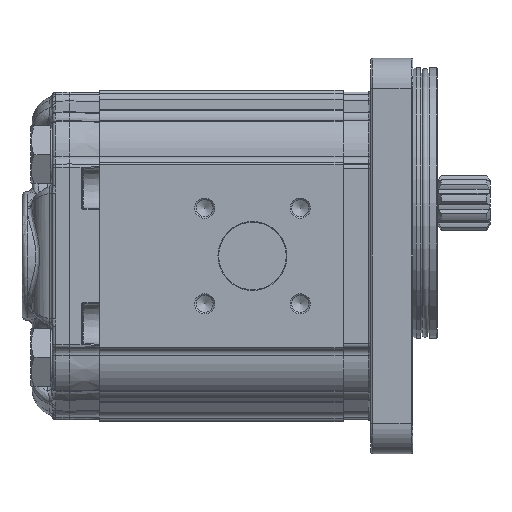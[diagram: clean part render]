
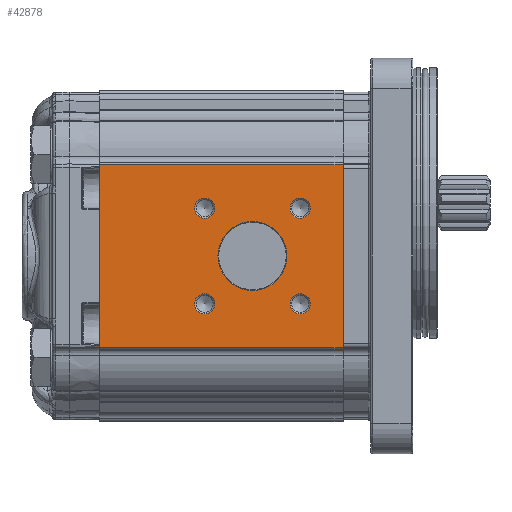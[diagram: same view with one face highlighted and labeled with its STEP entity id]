
A CAD part, left-side view. The second image highlights one B-rep face of the part: STEP entity #42878.
In plain terms, the highlighted planar face has unit normal (-1, 0, 0).
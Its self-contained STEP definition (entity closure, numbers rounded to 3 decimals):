
#2506=PLANE('',#45308);
#3247=LINE('',#59863,#4901);
#3248=LINE('',#59866,#4902);
#3249=LINE('',#59868,#4903);
#3250=LINE('',#59870,#4904);
#4901=VECTOR('',#49655,1000.);
#4902=VECTOR('',#49656,1000.);
#4903=VECTOR('',#49657,1000.);
#4904=VECTOR('',#49658,1000.);
#8594=ORIENTED_EDGE('',*,*,#16449,.T.);
#8595=ORIENTED_EDGE('',*,*,#16450,.T.);
#8596=ORIENTED_EDGE('',*,*,#16451,.T.);
#8597=ORIENTED_EDGE('',*,*,#16452,.T.);
#8598=ORIENTED_EDGE('',*,*,#16453,.T.);
#8599=ORIENTED_EDGE('',*,*,#16454,.F.);
#8600=ORIENTED_EDGE('',*,*,#16455,.F.);
#8601=ORIENTED_EDGE('',*,*,#16456,.T.);
#8602=ORIENTED_EDGE('',*,*,#16457,.T.);
#16449=EDGE_CURVE('',#20542,#20542,#23119,.F.);
#16450=EDGE_CURVE('',#20543,#20543,#23120,.F.);
#16451=EDGE_CURVE('',#20544,#20544,#23121,.F.);
#16452=EDGE_CURVE('',#20545,#20545,#23122,.F.);
#16453=EDGE_CURVE('',#20546,#20546,#23123,.F.);
#16454=EDGE_CURVE('',#20547,#20548,#3247,.T.);
#16455=EDGE_CURVE('',#20549,#20547,#3248,.T.);
#16456=EDGE_CURVE('',#20549,#20550,#3249,.T.);
#16457=EDGE_CURVE('',#20550,#20548,#3250,.T.);
#20542=VERTEX_POINT('',#59854);
#20543=VERTEX_POINT('',#59856);
#20544=VERTEX_POINT('',#59858);
#20545=VERTEX_POINT('',#59860);
#20546=VERTEX_POINT('',#59862);
#20547=VERTEX_POINT('',#59864);
#20548=VERTEX_POINT('',#59865);
#20549=VERTEX_POINT('',#59867);
#20550=VERTEX_POINT('',#59869);
#23119=CIRCLE('',#45309,10.2);
#23120=CIRCLE('',#45310,3.);
#23121=CIRCLE('',#45311,3.);
#23122=CIRCLE('',#45312,3.);
#23123=CIRCLE('',#45313,3.);
#24662=EDGE_LOOP('',(#8594));
#24663=EDGE_LOOP('',(#8595));
#24664=EDGE_LOOP('',(#8596));
#24665=EDGE_LOOP('',(#8597));
#24666=EDGE_LOOP('',(#8598));
#24667=EDGE_LOOP('',(#8599,#8600,#8601,#8602));
#26849=FACE_BOUND('',#24662,.T.);
#26850=FACE_BOUND('',#24663,.T.);
#26851=FACE_BOUND('',#24664,.T.);
#26852=FACE_BOUND('',#24665,.T.);
#26853=FACE_BOUND('',#24666,.T.);
#26854=FACE_BOUND('',#24667,.T.);
#42878=ADVANCED_FACE('',(#26849,#26850,#26851,#26852,#26853,#26854),#2506,
 .T.);
#45308=AXIS2_PLACEMENT_3D('',#59852,#49643,#49644);
#45309=AXIS2_PLACEMENT_3D('',#59853,#49645,#49646);
#45310=AXIS2_PLACEMENT_3D('',#59855,#49647,#49648);
#45311=AXIS2_PLACEMENT_3D('',#59857,#49649,#49650);
#45312=AXIS2_PLACEMENT_3D('',#59859,#49651,#49652);
#45313=AXIS2_PLACEMENT_3D('',#59861,#49653,#49654);
#49643=DIRECTION('',(-1.,0.,0.));
#49644=DIRECTION('',(0.,0.,1.));
#49645=DIRECTION('',(-1.,0.,0.));
#49646=DIRECTION('',(0.,0.,1.));
#49647=DIRECTION('',(-1.,0.,0.));
#49648=DIRECTION('',(0.,0.,1.));
#49649=DIRECTION('',(-1.,0.,0.));
#49650=DIRECTION('',(0.,0.,1.));
#49651=DIRECTION('',(-1.,0.,0.));
#49652=DIRECTION('',(0.,0.,1.));
#49653=DIRECTION('',(-1.,0.,0.));
#49654=DIRECTION('',(0.,0.,1.));
#49655=DIRECTION('',(0.,0.,-1.));
#49656=DIRECTION('',(0.,-1.,0.));
#49657=DIRECTION('',(0.,0.,-1.));
#49658=DIRECTION('',(0.,-1.,0.));
#59852=CARTESIAN_POINT('',(-43.,72.,27.048));
#59853=CARTESIAN_POINT('',(-43.,26.8,0.));
#59854=CARTESIAN_POINT('',(-43.,26.8,10.2));
#59855=CARTESIAN_POINT('',(-43.,40.942,-14.142));
#59856=CARTESIAN_POINT('',(-43.,40.942,-11.142));
#59857=CARTESIAN_POINT('',(-43.,40.942,14.142));
#59858=CARTESIAN_POINT('',(-43.,40.942,17.142));
#59859=CARTESIAN_POINT('',(-43.,12.658,14.142));
#59860=CARTESIAN_POINT('',(-43.,12.658,17.142));
#59861=CARTESIAN_POINT('',(-43.,12.658,-14.142));
#59862=CARTESIAN_POINT('',(-43.,12.658,-11.142));
#59863=CARTESIAN_POINT('',(-43.,0.,27.048));
#59864=CARTESIAN_POINT('',(-43.,0.,27.048));
#59865=CARTESIAN_POINT('',(-43.,0.,-27.048));
#59866=CARTESIAN_POINT('',(-43.,72.,27.048));
#59867=CARTESIAN_POINT('',(-43.,72.,27.048));
#59868=CARTESIAN_POINT('',(-43.,72.,27.048));
#59869=CARTESIAN_POINT('',(-43.,72.,-27.048));
#59870=CARTESIAN_POINT('',(-43.,72.,-27.048));
